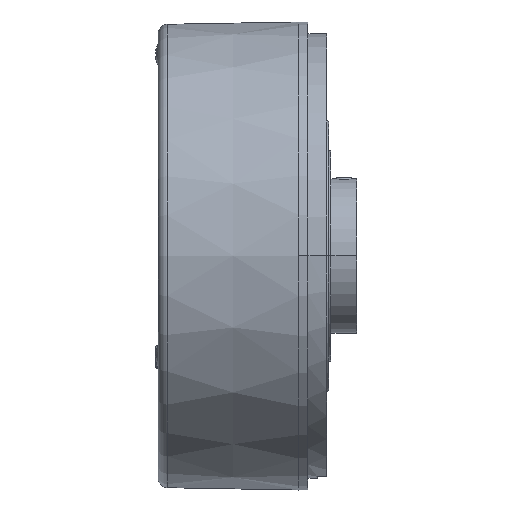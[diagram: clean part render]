
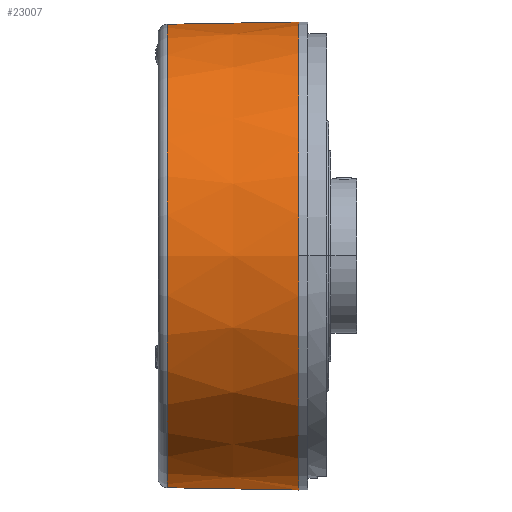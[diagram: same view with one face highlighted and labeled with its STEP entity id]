
A CAD part, top view. The second image highlights one B-rep face of the part: STEP entity #23007.
In plain terms, the highlighted conical face has half-angle 1 degrees and reference radius 50 mm.
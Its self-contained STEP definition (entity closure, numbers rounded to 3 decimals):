
#4920 = VERTEX_POINT ( 'NONE', #36546 ) ;
#11197 = EDGE_CURVE ( 'NONE', #4920, #12212, #39056, .T. ) ;
#12212 = VERTEX_POINT ( 'NONE', #39201 ) ;
#23007 = ADVANCED_FACE ( 'NONE', ( #27690 ), #27723, .T. ) ;
#23128 = ORIENTED_EDGE ( 'NONE', *, *, #23143, .F. ) ;
#23132 = VERTEX_POINT ( 'NONE', #27750 ) ;
#23133 = ORIENTED_EDGE ( 'NONE', *, *, #11197, .T. ) ;
#23142 = ORIENTED_EDGE ( 'NONE', *, *, #23373, .T. ) ;
#23143 = EDGE_CURVE ( 'NONE', #4920, #23132, #27768, .T. ) ;
#23144 = EDGE_CURVE ( 'NONE', #23372, #23132, #27764, .T. ) ;
#23208 = ORIENTED_EDGE ( 'NONE', *, *, #23144, .T. ) ;
#23372 = VERTEX_POINT ( 'NONE', #27806 ) ;
#23373 = EDGE_CURVE ( 'NONE', #12212, #23372, #27805, .T. ) ;
#24889 = EDGE_LOOP ( 'NONE', ( #23128, #23133, #23142, #23208 ) ) ;
#27690 = FACE_OUTER_BOUND ( 'NONE', #24889, .T. ) ;
#27719 = DIRECTION ( 'NONE',  ( 0., -1., 0. ) ) ;
#27720 = DIRECTION ( 'NONE',  ( 1., 0., 0. ) ) ;
#27721 = CARTESIAN_POINT ( 'NONE',  ( 42.827, -3.167, 0. ) ) ;
#27722 = AXIS2_PLACEMENT_3D ( 'NONE', #27721, #27720, #27719 ) ;
#27723 = CONICAL_SURFACE ( 'NONE', #27722, 50., 0.017 ) ;
#27750 = CARTESIAN_POINT ( 'NONE',  ( 42.827, 46.833, 0. ) ) ;
#27760 = DIRECTION ( 'NONE',  ( 0., 1., 0. ) ) ;
#27761 = DIRECTION ( 'NONE',  ( -1., 0., 0. ) ) ;
#27762 = CARTESIAN_POINT ( 'NONE',  ( 42.827, -3.167, 0. ) ) ;
#27763 = AXIS2_PLACEMENT_3D ( 'NONE', #27762, #27761, #27760 ) ;
#27764 = CIRCLE ( 'NONE', #27763, 50. ) ;
#27765 = DIRECTION ( 'NONE',  ( 1., 0.017, 0. ) ) ;
#27766 = VECTOR ( 'NONE', #27765, 1000. ) ;
#27767 = CARTESIAN_POINT ( 'NONE',  ( 42.827, 46.833, 0. ) ) ;
#27768 = LINE ( 'NONE', #27767, #27766 ) ;
#27802 = DIRECTION ( 'NONE',  ( 1., -0.017, 0. ) ) ;
#27803 = VECTOR ( 'NONE', #27802, 1000. ) ;
#27804 = CARTESIAN_POINT ( 'NONE',  ( 42.827, -53.167, 0. ) ) ;
#27805 = LINE ( 'NONE', #27804, #27803 ) ;
#27806 = CARTESIAN_POINT ( 'NONE',  ( 42.827, -53.167, 0. ) ) ;
#36546 = CARTESIAN_POINT ( 'NONE',  ( 14.792, 46.344, 0. ) ) ;
#39052 = DIRECTION ( 'NONE',  ( 0., 1., 0. ) ) ;
#39053 = DIRECTION ( 'NONE',  ( 1., 0., 0. ) ) ;
#39054 = CARTESIAN_POINT ( 'NONE',  ( 14.792, -3.167, 0. ) ) ;
#39055 = AXIS2_PLACEMENT_3D ( 'NONE', #39054, #39053, #39052 ) ;
#39056 = CIRCLE ( 'NONE', #39055, 49.511 ) ;
#39201 = CARTESIAN_POINT ( 'NONE',  ( 14.792, -52.677, 0. ) ) ;
